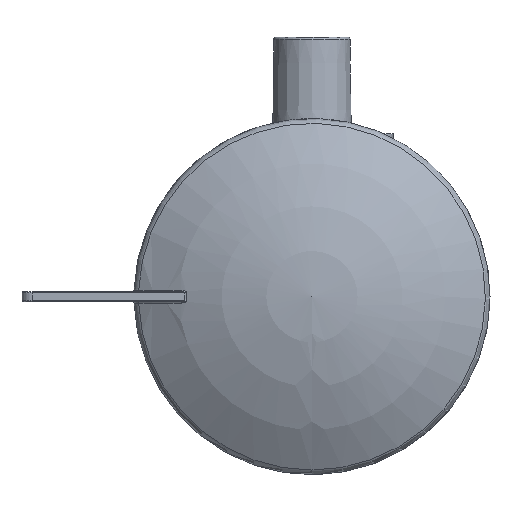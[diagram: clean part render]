
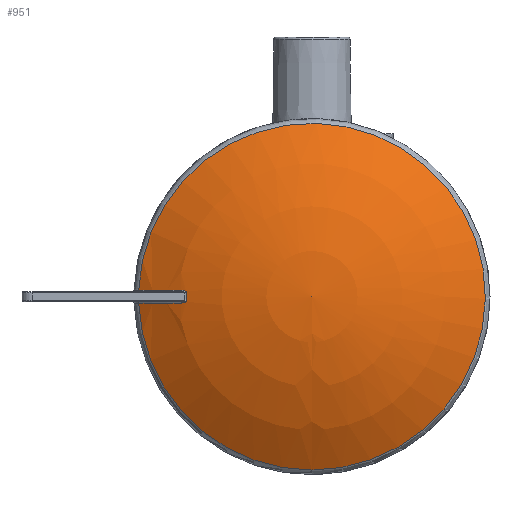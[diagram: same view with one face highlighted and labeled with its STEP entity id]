
A CAD part, left-side view. The second image highlights one B-rep face of the part: STEP entity #951.
In plain terms, the highlighted spherical face has radius 63.075 mm.
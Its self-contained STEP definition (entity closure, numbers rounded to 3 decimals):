
#87=SPHERICAL_SURFACE('',#1046,63.075);
#138=B_SPLINE_CURVE_WITH_KNOTS('',3,(#1505,#1506,#1507,#1508),
 .UNSPECIFIED.,.F.,.F.,(4,4),(0.,0.001),.UNSPECIFIED.);
#139=B_SPLINE_CURVE_WITH_KNOTS('',3,(#1510,#1511,#1512,#1513),
 .UNSPECIFIED.,.F.,.F.,(4,4),(0.,0.002),.UNSPECIFIED.);
#140=B_SPLINE_CURVE_WITH_KNOTS('',3,(#1515,#1516,#1517,#1518),
 .UNSPECIFIED.,.F.,.F.,(4,4),(0.,0.001),
 .UNSPECIFIED.);
#205=ORIENTED_EDGE('',*,*,#475,.T.);
#206=ORIENTED_EDGE('',*,*,#476,.T.);
#207=ORIENTED_EDGE('',*,*,#477,.T.);
#208=ORIENTED_EDGE('',*,*,#478,.T.);
#209=ORIENTED_EDGE('',*,*,#479,.T.);
#210=ORIENTED_EDGE('',*,*,#480,.T.);
#475=EDGE_CURVE('',#612,#613,#694,.T.);
#476=EDGE_CURVE('',#613,#614,#695,.F.);
#477=EDGE_CURVE('',#614,#615,#138,.T.);
#478=EDGE_CURVE('',#615,#616,#139,.T.);
#479=EDGE_CURVE('',#616,#617,#140,.T.);
#480=EDGE_CURVE('',#617,#612,#696,.F.);
#612=VERTEX_POINT('',#1501);
#613=VERTEX_POINT('',#1502);
#614=VERTEX_POINT('',#1504);
#615=VERTEX_POINT('',#1509);
#616=VERTEX_POINT('',#1514);
#617=VERTEX_POINT('',#1519);
#694=CIRCLE('',#1047,34.081);
#695=CIRCLE('',#1048,63.062);
#696=CIRCLE('',#1049,63.062);
#765=EDGE_LOOP('',(#205,#206,#207,#208,#209,#210));
#854=FACE_BOUND('',#765,.T.);
#951=ADVANCED_FACE('',(#854),#87,.T.);
#1046=AXIS2_PLACEMENT_3D('',#1499,#1192,#1193);
#1047=AXIS2_PLACEMENT_3D('',#1500,#1194,#1195);
#1048=AXIS2_PLACEMENT_3D('',#1503,#1196,#1197);
#1049=AXIS2_PLACEMENT_3D('',#1520,#1198,#1199);
#1192=DIRECTION('',(-1.,0.,0.));
#1193=DIRECTION('',(0.,0.,-1.));
#1194=DIRECTION('',(-1.,0.,0.));
#1195=DIRECTION('',(0.,0.,1.));
#1196=DIRECTION('',(0.,0.,-1.));
#1197=DIRECTION('',(-1.,0.,0.));
#1198=DIRECTION('',(0.,0.,1.));
#1199=DIRECTION('',(1.,0.,0.));
#1499=CARTESIAN_POINT('',(22.075,0.,0.));
#1500=CARTESIAN_POINT('',(-31.,0.,0.));
#1501=CARTESIAN_POINT('',(-31.,34.058,-1.245));
#1502=CARTESIAN_POINT('',(-31.,34.058,1.245));
#1503=CARTESIAN_POINT('',(22.075,0.,1.245));
#1504=CARTESIAN_POINT('',(-35.522,25.681,1.245));
#1505=CARTESIAN_POINT('',(-35.522,25.681,1.245));
#1506=CARTESIAN_POINT('',(-35.67,25.349,1.245));
#1507=CARTESIAN_POINT('',(-35.821,25.004,1.209));
#1508=CARTESIAN_POINT('',(-35.944,24.723,1.011));
#1509=CARTESIAN_POINT('',(-35.944,24.723,1.011));
#1510=CARTESIAN_POINT('',(-35.944,24.723,1.011));
#1511=CARTESIAN_POINT('',(-35.952,24.731,0.337));
#1512=CARTESIAN_POINT('',(-35.952,24.731,-0.337));
#1513=CARTESIAN_POINT('',(-35.944,24.723,-1.011));
#1514=CARTESIAN_POINT('',(-35.944,24.723,-1.011));
#1515=CARTESIAN_POINT('',(-35.944,24.723,-1.011));
#1516=CARTESIAN_POINT('',(-35.821,25.004,-1.209));
#1517=CARTESIAN_POINT('',(-35.67,25.349,-1.245));
#1518=CARTESIAN_POINT('',(-35.522,25.681,-1.245));
#1519=CARTESIAN_POINT('',(-35.522,25.681,-1.245));
#1520=CARTESIAN_POINT('',(22.075,0.,-1.245));
